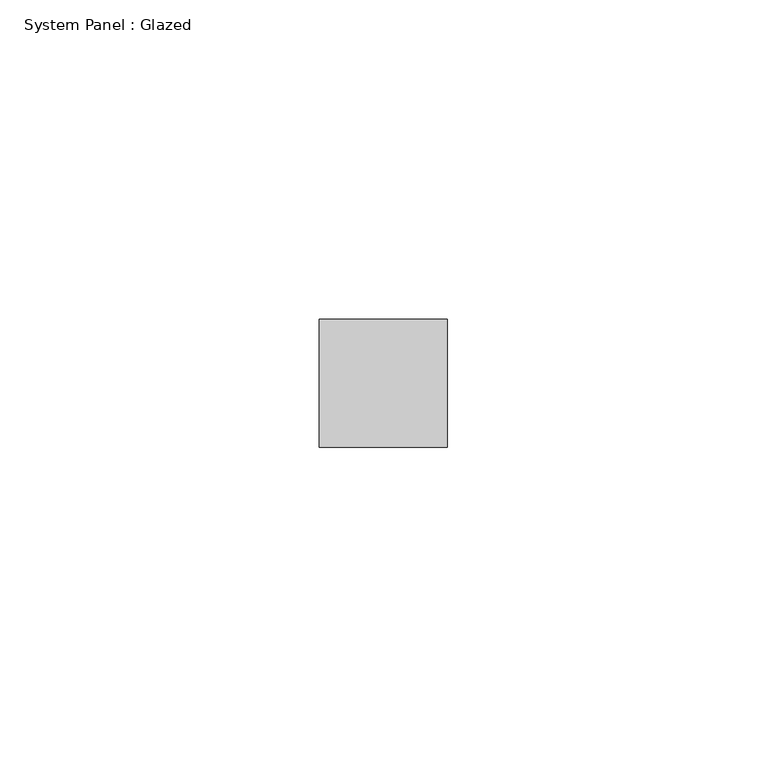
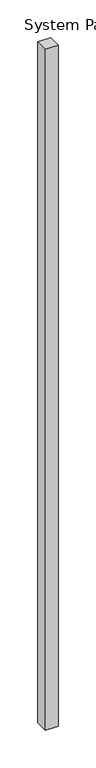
"""IFC4 building model written with IfcOpenShell, lengths in millimetres: plate geometry, System Panel : Glazed."""

from ifc_helpers import new_model, si_unit, origin, origin_with_axes, place, context, project, spatial, polyline, outline, extrude, source, transform, mapped, element, save


def system_panel_glazed_fc2bf58b(model_context):
    return source(origin(), model_context, "Body", "SweptSolid", [
        extrude(outline(polyline([(10.0, -20.0), (-10.0, -20.0), (-10.0, 0.0), (10.0, 0.0), (10.0, -20.0)])), origin_with_axes(), (0.0, 0.0, 1.0), 1105.0),
    ])


if __name__ == "__main__":
    model = new_model("IFC4")
    model_context = context("Model", 3, world=origin())
    ifc_project = project(units=[si_unit("LENGTHUNIT", "METRE", prefix="MILLI")], contexts=[model_context])
    site = spatial("IfcSite", under=ifc_project)
    building = spatial("IfcBuilding", under=site)
    placement = place(None, origin())
    system_panel_glazed_shape = system_panel_glazed_fc2bf58b(model_context)
    element("IfcPlate", 1, ObjectType="System Panel : Glazed", at=placement, inside=building, context=model_context, shape_type="MappedRepresentation", body=[
        mapped(system_panel_glazed_shape, transform((0.0, 0.0, 0.0), x_axis=(1.0, 0.0, 0.0), y_axis=(0.0, 1.0, 0.0), z_axis=(0.0, 0.0, 1.0))),
    ])
    save(model, "model.ifc")
